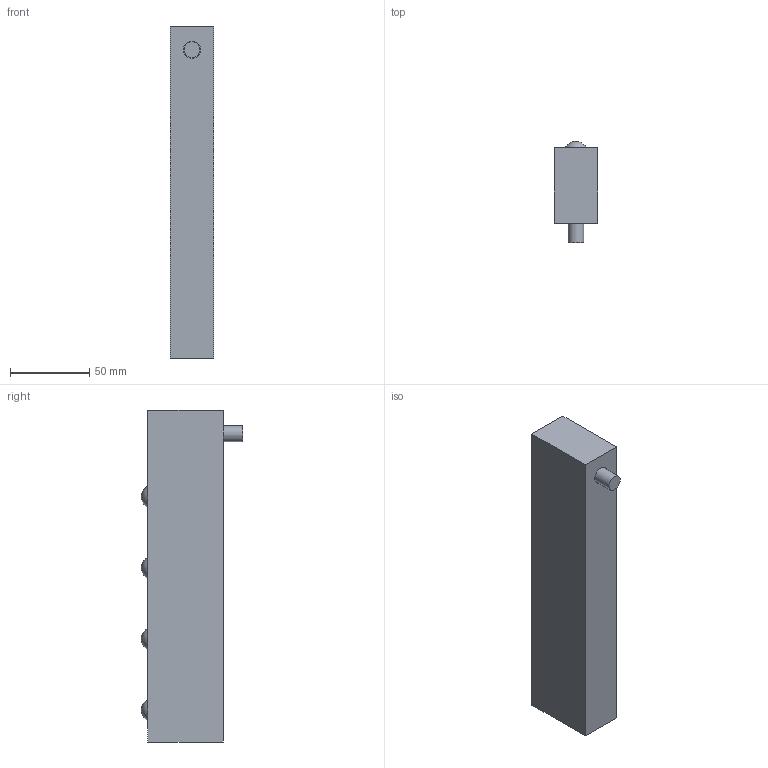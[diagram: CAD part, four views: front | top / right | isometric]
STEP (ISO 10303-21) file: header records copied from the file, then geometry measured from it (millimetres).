
FILE_DESCRIPTION(/* description */ (''),/* implementation_level */ '2;1');
FILE_NAME(/* name */ 'V:\Shrinkwrap\EMB\EMB - SHRINKWRAP\EMP28\EMB28-4_Shrinkwrap_1.stp',/* time_stamp */ '2022-08-12T11:17:33+02:00',/* author */ ('cw'),/* organization */ (''),/* preprocessor_version */ 'ST-DEVELOPER v17',/* originating_system */ 'Autodesk Inventor 2019',/* authorisation */ '');
FILE_SCHEMA (('AUTOMOTIVE_DESIGN { 1 0 10303 214 3 1 1 }'));
Length unit declared in the file: millimetre
Products named in the file (1): EMB28-4_Shrinkwrap_1
Bounding box: 27.8 x 64.05 x 210 mm (x, y, z)
Volume: 275482.1 mm3; surface area: 38394.6 mm2
Topology: 1 solids, 1 shells, 26 faces, 52 edges, 42 vertices
Faces by surface type: plane 14, cylinder 8, sphere 4
Full cylindrical faces by diameter (mm): 10 x1, 11 x1, 16 x1, 18 x1, 21.5 x4
Entity records: 807 total; most frequent: DIRECTION 134, CARTESIAN_POINT 119, ORIENTED_EDGE 100, AXIS2_PLACEMENT_3D 57, EDGE_CURVE 50, EDGE_LOOP 38, VERTEX_POINT 38, CIRCLE 30
